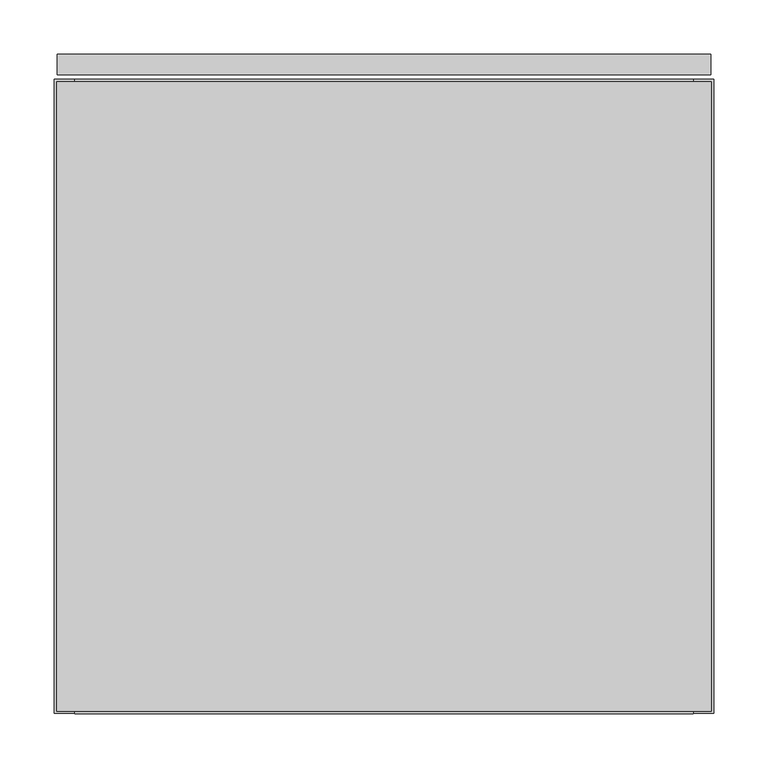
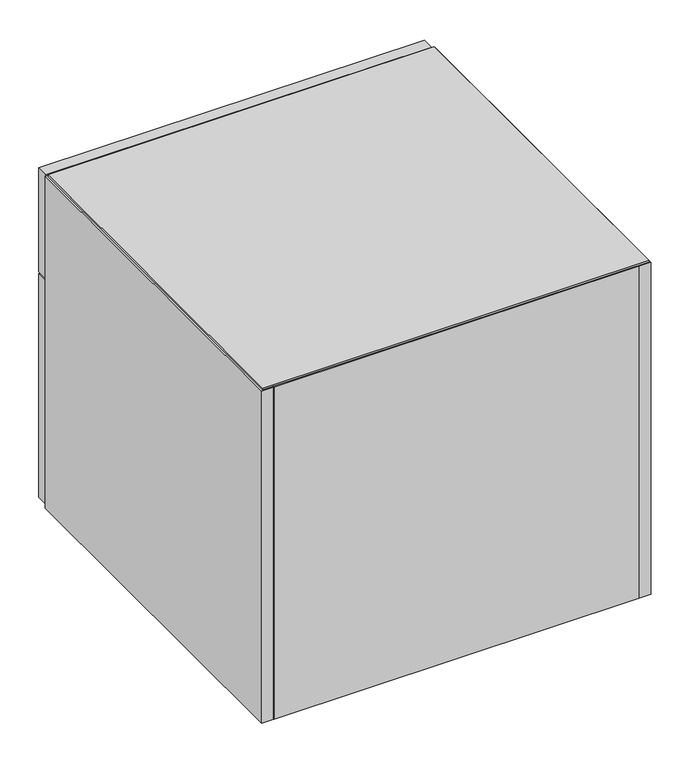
"""IFC4 building model written with IfcOpenShell, lengths in millimetres: furniture geometry, Geiger_GeigerOneCasegoods_LowStorage1Box1File : TFL 24Wx24Dx21.75H."""

from ifc_helpers import new_model, si_unit, point, frame, origin, place, context, project, spatial, polyline, circle_curve, ellipse_curve, trimmed, outline, extrude, source, transform, mapped, element, save
from ifc_brep_helpers import plane_surface, cylinder_surface, revolved_surface, advanced_brep


def furniture_b237f15b(model_context):
    return source(origin(), model_context, "Body", "SolidModel", [
        extrude(outline(polyline([(19.0, 19.5), (19.0, 586.4), (590.6, 586.4), (590.6, 19.5), (19.0, 19.5)])), frame((0.0, 0.0, 73.2), z_axis=(0.0, 0.0, 1.0), x_axis=(1.0, 0.0, 0.0)), (0.0, 0.0, 1.0), 19.5072),
        extrude(outline(polyline([(3.0, 590.4), (3.0, 609.6), (606.6, 609.6), (606.6, 590.4), (3.0, 590.4)])), frame((0.0, 0.0, 15.7), z_axis=(0.0, 0.0, 1.0), x_axis=(1.0, 0.0, 0.0)), (0.0, 0.0, 1.0), 370.0),
        extrude(outline(polyline([(3.0, 590.4), (3.0, 609.6), (606.6, 609.6), (606.6, 590.4), (3.0, 590.4)])), frame((0.0, 0.0, 388.7), z_axis=(0.0, 0.0, 1.0), x_axis=(1.0, 0.0, 0.0)), (0.0, 0.0, 1.0), 172.2),
        extrude(outline(polyline([(19.0, 19.5), (19.0, 566.9), (590.6, 566.9), (590.6, 19.5), (19.0, 19.5)])), frame((0.0, 0.0, 12.7), z_axis=(0.0, 0.0, 1.0), x_axis=(1.0, 0.0, 0.0)), (0.0, 0.0, 1.0), 19.5),
        extrude(outline(polyline([(607.06, 2.54), (2.54, 2.54), (2.54, 583.86), (607.06, 583.86), (607.06, 2.54)])), frame((0.0, 0.0, 561.7), z_axis=(0.0, 0.0, 1.0), x_axis=(1.0, 0.0, 0.0)), (0.0, 0.0, 1.0), 3.2766),
        extrude(outline(polyline([(19.0, 95.7), (19.0, 586.4), (590.6, 586.4), (590.6, 95.7), (19.0, 95.7)])), frame((0.0, 0.0, 542.2), z_axis=(0.0, 0.0, 1.0), x_axis=(1.0, 0.0, 0.0)), (0.0, 0.0, 1.0), 19.5),
        extrude(outline(polyline([(590.6, 19.5), (590.6, 0.0), (19.0, 0.0), (19.0, 19.5), (590.6, 19.5)])), frame((0.0, 0.0, 12.7), z_axis=(0.0, 0.0, 1.0), x_axis=(1.0, 0.0, 0.0)), (0.0, 0.0, 1.0), 549.0),
        extrude(outline(polyline([(19.0, 566.9), (19.0, 586.4), (590.6, 586.4), (590.6, 566.9), (19.0, 566.9)])), frame((0.0, 0.0, 12.7), z_axis=(0.0, 0.0, 1.0), x_axis=(1.0, 0.0, 0.0)), (0.0, 0.0, 1.0), 60.5),
        extrude(outline(polyline([(19.0, 586.4), (19.0, 0.5), (0.0, 0.5), (0.0, 586.4), (19.0, 586.4)])), frame((0.0, 0.0, 12.7), z_axis=(0.0, 0.0, 1.0), x_axis=(1.0, 0.0, 0.0)), (0.0, 0.0, 1.0), 549.0),
        extrude(outline(polyline([(609.6, 586.4), (609.6, 0.5), (590.6, 0.5), (590.6, 586.4), (609.6, 586.4)])), frame((0.0, 0.0, 12.7), z_axis=(0.0, 0.0, 1.0), x_axis=(1.0, 0.0, 0.0)), (0.0, 0.0, 1.0), 549.0),
        advanced_brep(
        [(94.0575663, 528.9165105, 0.0), (83.0, 528.9165105, 0.0), (71.9424337, 528.9165105, 0.0), (71.9424337, 528.9165105, 9.5), (94.0575663, 528.9165105, 9.5), (78.933545, 528.9165105, 9.5), (87.066455, 528.9165105, 9.5), (78.933545, 528.9165105, 12.7), (87.066455, 528.9165105, 12.7), (83.0, 528.9165105, 12.7)],
        [
            (0, 1),
            (1, 2),
            (2, 0, circle_curve(frame((83.0, 528.9165105, 0.0), z_axis=(0.0, 0.0, -1.0), x_axis=(-1.0, 0.0, 0.0)), 11.0575663)),
            (0, 2, circle_curve(frame((83.0, 528.9165105, 0.0), z_axis=(0.0, 0.0, -1.0), x_axis=(-1.0, 0.0, 0.0)), 11.0575663)),
            (2, 3, circle_curve(frame((71.9424337, 528.9165105, 4.75), z_axis=(0.0, 1.0, 0.0), x_axis=(-1.0, 0.0, 0.0)), 4.75)),
            (3, 4, circle_curve(frame((83.0, 528.9165105, 9.5), z_axis=(0.0, 0.0, -1.0), x_axis=(-1.0, 0.0, 0.0)), 11.0575663)),
            (4, 0, circle_curve(frame((94.0575663, 528.9165105, 4.75), z_axis=(0.0, 1.0, 0.0), x_axis=(1.0, 0.0, 0.0)), 4.75)),
            (4, 3, circle_curve(frame((83.0, 528.9165105, 9.5), z_axis=(0.0, 0.0, -1.0), x_axis=(-1.0, 0.0, 0.0)), 11.0575663)),
            (3, 5),
            (5, 6, circle_curve(frame((83.0, 528.9165105, 9.5), z_axis=(0.0, 0.0, -1.0), x_axis=(-1.0, 0.0, 0.0)), 4.066455)),
            (6, 4),
            (6, 5, circle_curve(frame((83.0, 528.9165105, 9.5), z_axis=(0.0, 0.0, -1.0), x_axis=(-1.0, 0.0, 0.0)), 4.066455)),
            (5, 7),
            (7, 8, circle_curve(frame((83.0, 528.9165105, 12.7), z_axis=(0.0, 0.0, -1.0), x_axis=(-1.0, 0.0, 0.0)), 4.066455)),
            (8, 6),
            (8, 7, circle_curve(frame((83.0, 528.9165105, 12.7), z_axis=(0.0, 0.0, -1.0), x_axis=(-1.0, 0.0, 0.0)), 4.066455)),
            (7, 9),
            (9, 8),
        ],
        [
            plane_surface(frame((83.0, 528.9165105, 0.0), z_axis=(0.0, 0.0, -1.0), x_axis=(-1.0, 0.0, 0.0))),
            revolved_surface(trimmed(ellipse_curve(frame((71.9424337, 528.9165105, 4.75), z_axis=(0.0, 1.0, 0.0), x_axis=(-1.0, 0.0, 0.0)), 4.75, 4.75), [point((71.9424337, 528.9165105, 0.0))], [point((71.9424337, 528.9165105, 9.5))], True, "CARTESIAN"), (83.0, 528.9165105, 0.0), (0.0, 0.0, 1.0)),
            plane_surface(frame((83.0, 528.9165105, 9.5), z_axis=(0.0, 0.0, 1.0), x_axis=(-1.0, 0.0, 0.0))),
            cylinder_surface(frame((83.0, 528.9165105, 0.0), z_axis=(0.0, 0.0, 1.0), x_axis=(-1.0, 0.0, 0.0)), 4.066455),
            plane_surface(frame((83.0, 528.9165105, 12.7), z_axis=(0.0, 0.0, 1.0), x_axis=(-1.0, 0.0, 0.0))),
        ],
        [
            (0, [[1, 2, 3]]),
            (0, [[-1, 4, -2]]),
            (1, [[5, 6, 7, -3]]),
            (1, [[-7, 8, -5, -4]]),
            (2, [[9, 10, 11, -6]]),
            (2, [[-11, 12, -9, -8]]),
            (3, [[13, 14, 15, -10]]),
            (3, [[-15, 16, -13, -12]]),
            (4, [[17, 18, -14]]),
            (4, [[-18, -17, -16]]),
        ],
    ),
        advanced_brep(
        [(94.0575663, 127.0, 0.0), (83.0, 127.0, 0.0), (71.9424337, 127.0, 0.0), (71.9424337, 127.0, 9.5), (94.0575663, 127.0, 9.5), (78.933545, 127.0, 9.5), (87.066455, 127.0, 9.5), (78.933545, 127.0, 12.7), (87.066455, 127.0, 12.7), (83.0, 127.0, 12.7)],
        [
            (0, 1),
            (1, 2),
            (2, 0, circle_curve(frame((83.0, 127.0, 0.0), z_axis=(0.0, 0.0, -1.0), x_axis=(-1.0, 0.0, 0.0)), 11.0575663)),
            (0, 2, circle_curve(frame((83.0, 127.0, 0.0), z_axis=(0.0, 0.0, -1.0), x_axis=(-1.0, 0.0, 0.0)), 11.0575663)),
            (2, 3, circle_curve(frame((71.9424337, 127.0, 4.75), z_axis=(0.0, 1.0, 0.0), x_axis=(-1.0, 0.0, 0.0)), 4.75)),
            (3, 4, circle_curve(frame((83.0, 127.0, 9.5), z_axis=(0.0, 0.0, -1.0), x_axis=(-1.0, 0.0, 0.0)), 11.0575663)),
            (4, 0, circle_curve(frame((94.0575663, 127.0, 4.75), z_axis=(0.0, 1.0, 0.0), x_axis=(1.0, 0.0, 0.0)), 4.75)),
            (4, 3, circle_curve(frame((83.0, 127.0, 9.5), z_axis=(0.0, 0.0, -1.0), x_axis=(-1.0, 0.0, 0.0)), 11.0575663)),
            (3, 5),
            (5, 6, circle_curve(frame((83.0, 127.0, 9.5), z_axis=(0.0, 0.0, -1.0), x_axis=(-1.0, 0.0, 0.0)), 4.066455)),
            (6, 4),
            (6, 5, circle_curve(frame((83.0, 127.0, 9.5), z_axis=(0.0, 0.0, -1.0), x_axis=(-1.0, 0.0, 0.0)), 4.066455)),
            (5, 7),
            (7, 8, circle_curve(frame((83.0, 127.0, 12.7), z_axis=(0.0, 0.0, -1.0), x_axis=(-1.0, 0.0, 0.0)), 4.066455)),
            (8, 6),
            (8, 7, circle_curve(frame((83.0, 127.0, 12.7), z_axis=(0.0, 0.0, -1.0), x_axis=(-1.0, 0.0, 0.0)), 4.066455)),
            (7, 9),
            (9, 8),
        ],
        [
            plane_surface(frame((83.0, 127.0, 0.0), z_axis=(0.0, 0.0, -1.0), x_axis=(-1.0, 0.0, 0.0))),
            revolved_surface(trimmed(ellipse_curve(frame((71.9424337, 127.0, 4.75), z_axis=(0.0, 1.0, 0.0), x_axis=(-1.0, 0.0, 0.0)), 4.75, 4.75), [point((71.9424337, 127.0, 0.0))], [point((71.9424337, 127.0, 9.5))], True, "CARTESIAN"), (83.0, 127.0, 0.0), (0.0, 0.0, 1.0)),
            plane_surface(frame((83.0, 127.0, 9.5), z_axis=(0.0, 0.0, 1.0), x_axis=(-1.0, 0.0, 0.0))),
            cylinder_surface(frame((83.0, 127.0, 0.0), z_axis=(0.0, 0.0, 1.0), x_axis=(-1.0, 0.0, 0.0)), 4.066455),
            plane_surface(frame((83.0, 127.0, 12.7), z_axis=(0.0, 0.0, 1.0), x_axis=(-1.0, 0.0, 0.0))),
        ],
        [
            (0, [[1, 2, 3]]),
            (0, [[-1, 4, -2]]),
            (1, [[5, 6, 7, -3]]),
            (1, [[-7, 8, -5, -4]]),
            (2, [[9, 10, 11, -6]]),
            (2, [[-11, 12, -9, -8]]),
            (3, [[13, 14, 15, -10]]),
            (3, [[-15, 16, -13, -12]]),
            (4, [[17, 18, -14]]),
            (4, [[-18, -17, -16]]),
        ],
    ),
        advanced_brep(
        [(526.6, 528.9165105, 0.0), (515.5424337, 528.9165105, 0.0), (537.6575663, 528.9165105, 0.0), (515.5424337, 528.9165105, 9.5), (537.6575663, 528.9165105, 9.5), (522.533545, 528.9165105, 9.5), (530.666455, 528.9165105, 9.5), (522.533545, 528.9165105, 12.7), (530.666455, 528.9165105, 12.7), (526.6, 528.9165105, 12.7)],
        [
            (0, 1),
            (1, 2, circle_curve(frame((526.6, 528.9165105, 0.0), z_axis=(0.0, 0.0, -1.0), x_axis=(1.0, 0.0, 0.0)), 11.0575663)),
            (2, 0),
            (2, 1, circle_curve(frame((526.6, 528.9165105, 0.0), z_axis=(0.0, 0.0, -1.0), x_axis=(1.0, 0.0, 0.0)), 11.0575663)),
            (1, 3, circle_curve(frame((515.5424337, 528.9165105, 4.75), z_axis=(0.0, 1.0, 0.0), x_axis=(1.0, 0.0, 0.0)), 4.75)),
            (3, 4, circle_curve(frame((526.6, 528.9165105, 9.5), z_axis=(0.0, 0.0, -1.0), x_axis=(1.0, 0.0, 0.0)), 11.0575663)),
            (4, 2, circle_curve(frame((537.6575663, 528.9165105, 4.75), z_axis=(0.0, 1.0, 0.0), x_axis=(-1.0, 0.0, 0.0)), 4.75)),
            (4, 3, circle_curve(frame((526.6, 528.9165105, 9.5), z_axis=(0.0, 0.0, -1.0), x_axis=(1.0, 0.0, 0.0)), 11.0575663)),
            (3, 5),
            (5, 6, circle_curve(frame((526.6, 528.9165105, 9.5), z_axis=(0.0, 0.0, -1.0), x_axis=(1.0, 0.0, 0.0)), 4.066455)),
            (6, 4),
            (6, 5, circle_curve(frame((526.6, 528.9165105, 9.5), z_axis=(0.0, 0.0, -1.0), x_axis=(1.0, 0.0, 0.0)), 4.066455)),
            (5, 7),
            (7, 8, circle_curve(frame((526.6, 528.9165105, 12.7), z_axis=(0.0, 0.0, -1.0), x_axis=(1.0, 0.0, 0.0)), 4.066455)),
            (8, 6),
            (8, 7, circle_curve(frame((526.6, 528.9165105, 12.7), z_axis=(0.0, 0.0, -1.0), x_axis=(1.0, 0.0, 0.0)), 4.066455)),
            (7, 9),
            (9, 8),
        ],
        [
            plane_surface(frame((526.6, 528.9165105, 0.0), z_axis=(0.0, 0.0, -1.0), x_axis=(1.0, 0.0, 0.0))),
            revolved_surface(trimmed(ellipse_curve(frame((537.6575663, 528.9165105, 4.75), z_axis=(0.0, 1.0, 0.0), x_axis=(-1.0, 0.0, 0.0)), 4.75, 4.75), [point((537.6575663, 528.9165105, 9.5))], [point((537.6575663, 528.9165105, 0.0))], True, "CARTESIAN"), (526.6, 528.9165105, 0.0), (0.0, 0.0, -1.0)),
            plane_surface(frame((526.6, 528.9165105, 9.5), z_axis=(0.0, 0.0, 1.0), x_axis=(1.0, 0.0, 0.0))),
            cylinder_surface(frame((526.6, 528.9165105, 0.0), z_axis=(0.0, 0.0, -1.0), x_axis=(1.0, 0.0, 0.0)), 4.066455),
            plane_surface(frame((526.6, 528.9165105, 12.7), z_axis=(0.0, 0.0, 1.0), x_axis=(1.0, 0.0, 0.0))),
        ],
        [
            (0, [[1, 2, 3]]),
            (0, [[4, -1, -3]]),
            (1, [[5, 6, 7, -2]]),
            (1, [[-7, 8, -5, -4]]),
            (2, [[9, 10, 11, -6]]),
            (2, [[-11, 12, -9, -8]]),
            (3, [[13, 14, 15, -10]]),
            (3, [[-15, 16, -13, -12]]),
            (4, [[17, 18, -14]]),
            (4, [[-18, -17, -16]]),
        ],
    ),
        advanced_brep(
        [(526.6, 127.0, 0.0), (515.5424337, 127.0, 0.0), (537.6575663, 127.0, 0.0), (515.5424337, 127.0, 9.5), (537.6575663, 127.0, 9.5), (522.533545, 127.0, 9.5), (530.666455, 127.0, 9.5), (522.533545, 127.0, 12.7), (530.666455, 127.0, 12.7), (526.6, 127.0, 12.7)],
        [
            (0, 1),
            (1, 2, circle_curve(frame((526.6, 127.0, 0.0), z_axis=(0.0, 0.0, -1.0), x_axis=(1.0, 0.0, 0.0)), 11.0575663)),
            (2, 0),
            (2, 1, circle_curve(frame((526.6, 127.0, 0.0), z_axis=(0.0, 0.0, -1.0), x_axis=(1.0, 0.0, 0.0)), 11.0575663)),
            (1, 3, circle_curve(frame((515.5424337, 127.0, 4.75), z_axis=(0.0, 1.0, 0.0), x_axis=(1.0, 0.0, 0.0)), 4.75)),
            (3, 4, circle_curve(frame((526.6, 127.0, 9.5), z_axis=(0.0, 0.0, -1.0), x_axis=(1.0, 0.0, 0.0)), 11.0575663)),
            (4, 2, circle_curve(frame((537.6575663, 127.0, 4.75), z_axis=(0.0, 1.0, 0.0), x_axis=(-1.0, 0.0, 0.0)), 4.75)),
            (4, 3, circle_curve(frame((526.6, 127.0, 9.5), z_axis=(0.0, 0.0, -1.0), x_axis=(1.0, 0.0, 0.0)), 11.0575663)),
            (3, 5),
            (5, 6, circle_curve(frame((526.6, 127.0, 9.5), z_axis=(0.0, 0.0, -1.0), x_axis=(1.0, 0.0, 0.0)), 4.066455)),
            (6, 4),
            (6, 5, circle_curve(frame((526.6, 127.0, 9.5), z_axis=(0.0, 0.0, -1.0), x_axis=(1.0, 0.0, 0.0)), 4.066455)),
            (5, 7),
            (7, 8, circle_curve(frame((526.6, 127.0, 12.7), z_axis=(0.0, 0.0, -1.0), x_axis=(1.0, 0.0, 0.0)), 4.066455)),
            (8, 6),
            (8, 7, circle_curve(frame((526.6, 127.0, 12.7), z_axis=(0.0, 0.0, -1.0), x_axis=(1.0, 0.0, 0.0)), 4.066455)),
            (7, 9),
            (9, 8),
        ],
        [
            plane_surface(frame((526.6, 127.0, 0.0), z_axis=(0.0, 0.0, -1.0), x_axis=(1.0, 0.0, 0.0))),
            revolved_surface(trimmed(ellipse_curve(frame((537.6575663, 127.0, 4.75), z_axis=(0.0, 1.0, 0.0), x_axis=(-1.0, 0.0, 0.0)), 4.75, 4.75), [point((537.6575663, 127.0, 9.5))], [point((537.6575663, 127.0, 0.0))], True, "CARTESIAN"), (526.6, 127.0, 0.0), (0.0, 0.0, -1.0)),
            plane_surface(frame((526.6, 127.0, 9.5), z_axis=(0.0, 0.0, 1.0), x_axis=(1.0, 0.0, 0.0))),
            cylinder_surface(frame((526.6, 127.0, 0.0), z_axis=(0.0, 0.0, -1.0), x_axis=(1.0, 0.0, 0.0)), 4.066455),
            plane_surface(frame((526.6, 127.0, 12.7), z_axis=(0.0, 0.0, 1.0), x_axis=(1.0, 0.0, 0.0))),
        ],
        [
            (0, [[1, 2, 3]]),
            (0, [[4, -1, -3]]),
            (1, [[5, 6, 7, -2]]),
            (1, [[-7, 8, -5, -4]]),
            (2, [[9, 10, 11, -6]]),
            (2, [[-11, 12, -9, -8]]),
            (3, [[13, 14, 15, -10]]),
            (3, [[-15, 16, -13, -12]]),
            (4, [[17, 18, -14]]),
            (4, [[-18, -17, -16]]),
        ],
    ),
    ])


if __name__ == "__main__":
    model = new_model("IFC4")
    model_context = context("Model", 3, world=origin())
    ifc_project = project(units=[si_unit("LENGTHUNIT", "METRE", prefix="MILLI")], contexts=[model_context])
    site = spatial("IfcSite", under=ifc_project)
    building = spatial("IfcBuilding", under=site)
    placement = place(None, origin())
    furniture_shape = furniture_b237f15b(model_context)
    element("IfcFurniture", 1, ObjectType="Geiger_GeigerOneCasegoods_LowStorage1Box1File : TFL 24Wx24Dx21.75H", at=placement, inside=building, context=model_context, shape_type="MappedRepresentation", body=[
        mapped(furniture_shape, transform((0.0, 0.0, 0.0), x_axis=(1.0, 0.0, 0.0), y_axis=(0.0, 1.0, 0.0), z_axis=(0.0, 0.0, 1.0))),
    ])
    save(model, "model.ifc")
